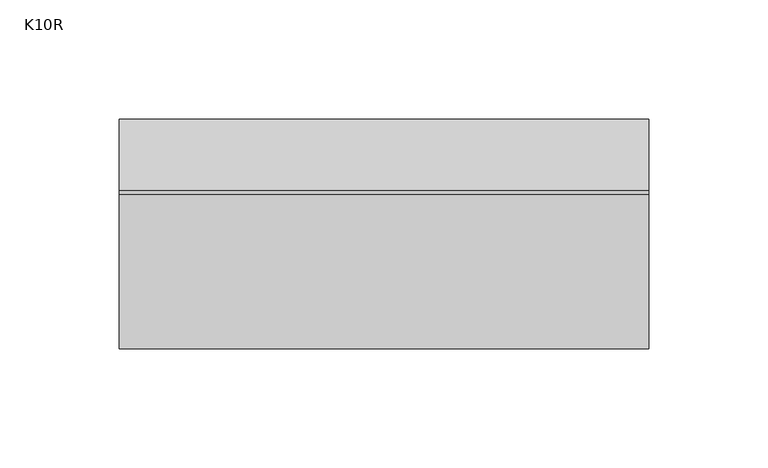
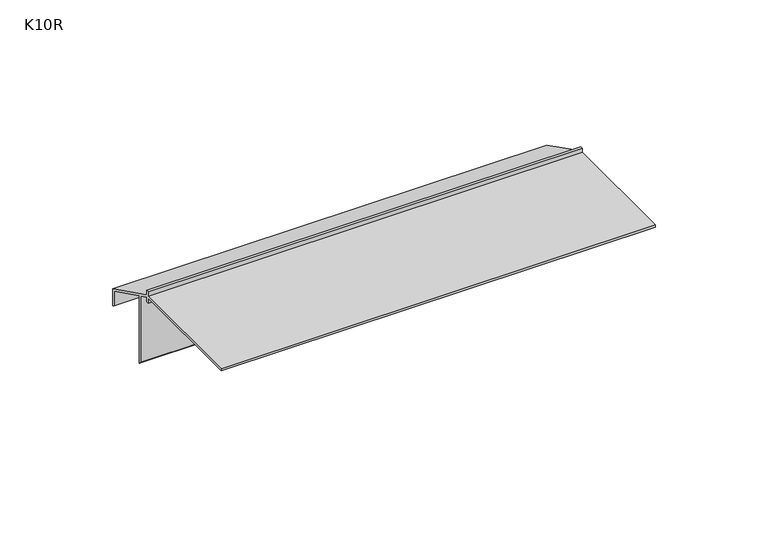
"""IFC4 building model written with IfcOpenShell, lengths in millimetres: proxy geometry, K10R Profil okapowy prosty z rynną : K10R."""

from ifc_helpers import new_model, si_unit, frame, origin, place, context, project, spatial, polyline, outline, extrude, source, transform, mapped, element, save


def k10r_1e52ed06(model_context):
    return source(origin(), model_context, "Body", "SweptSolid", [
        extrude(outline(polyline([(31.2999993, -17.3500005), (31.2999993, -26.6), (30.0499993, -25.9199265), (30.0499993, -18.1225422), (7.9999999, -7.0975422), (7.9999999, -43.6535517), (6.5000001, -42.1535547), (6.5000001, -6.3475423), (1.1999998, -3.697542), (1.1999998, -6.2999991), (0.0, -6.2999991), (0.0, -3.6), (-64.7000037, -3.6), (-64.7000037, -2.3499993), (0.0, -2.3499993), (0.0, 0.0), (1.2999997, 0.0), (1.2999997, -2.3500002), (31.2999993, -17.3500005)])), frame((0.0, 0.0, 0.0), z_axis=(1.0, 0.0, 0.0), x_axis=(0.0, 1.0, 0.0)), (0.0, 0.0, 1.0), 221.7440552),
    ])


if __name__ == "__main__":
    model = new_model("IFC4")
    model_context = context("Model", 3, world=origin())
    ifc_project = project(units=[si_unit("LENGTHUNIT", "METRE", prefix="MILLI")], contexts=[model_context])
    site = spatial("IfcSite", under=ifc_project)
    building = spatial("IfcBuilding", under=site)
    placement = place(None, origin())
    k10r_shape = k10r_1e52ed06(model_context)
    element("IfcBuildingElementProxy", 1, Name="K10R Profil okapowy prosty z rynną : K10R", ObjectType="K10R Profil okapowy prosty z rynną : K10R", at=placement, inside=building, context=model_context, shape_type="MappedRepresentation", body=[
        mapped(k10r_shape, transform((0.0, 0.0, 0.0), x_axis=(1.0, 0.0, 0.0), y_axis=(0.0, 1.0, 0.0), z_axis=(0.0, 0.0, 1.0))),
    ])
    save(model, "model.ifc")
